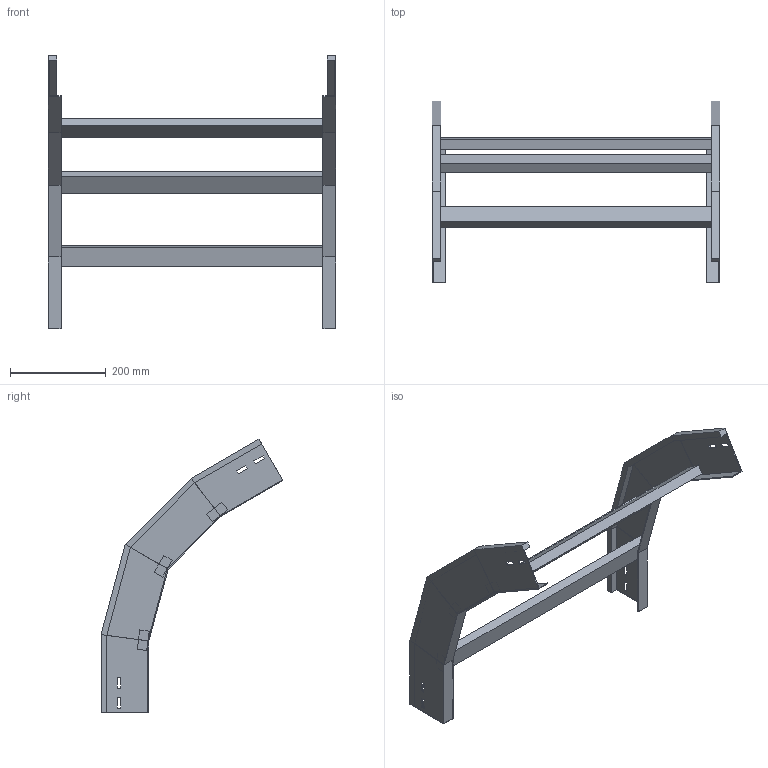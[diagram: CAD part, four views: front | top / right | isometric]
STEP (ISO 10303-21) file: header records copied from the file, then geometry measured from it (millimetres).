
FILE_DESCRIPTION (( 'STEP AP214' ), '1' );
FILE_NAME ('A2_41B3D600.step', '2025-02-21T14:56:46', ( '' ), ( '' ), 'SwSTEP 2.0', 'SolidWorks 2023', '' );
FILE_SCHEMA (( 'AUTOMOTIVE_DESIGN' ));
Length unit declared in the file: millimetre
Products named in the file (3): A2_41B3D600; TRAVERSINO_600; LONGH.DISCESA_60°_H100_R300
Assembly tree (5 placements, depth 2):
  A2_41B3D600
    LONGH.DISCESA_60°_H100_R300  x2
    TRAVERSINO_600  x3
Bounding box: 600 x 379.62 x 570.92 mm (x, y, z)
Volume: 2044764.7 mm3; surface area: 598533.5 mm2
Topology: 5 solids, 5 shells, 118 faces, 276 edges, 168 vertices
Faces by surface type: plane 118
Entity records: 1672 total; most frequent: CARTESIAN_POINT 276, ORIENTED_EDGE 264, DIRECTION 260, LINE 132, VECTOR 132, EDGE_CURVE 132, VERTEX_POINT 80, EDGE_LOOP 64
